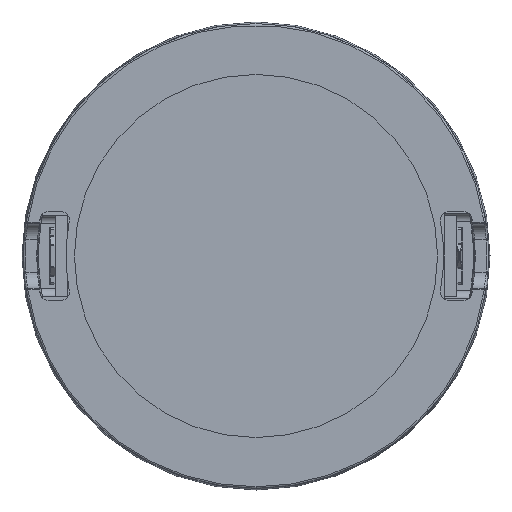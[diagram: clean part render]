
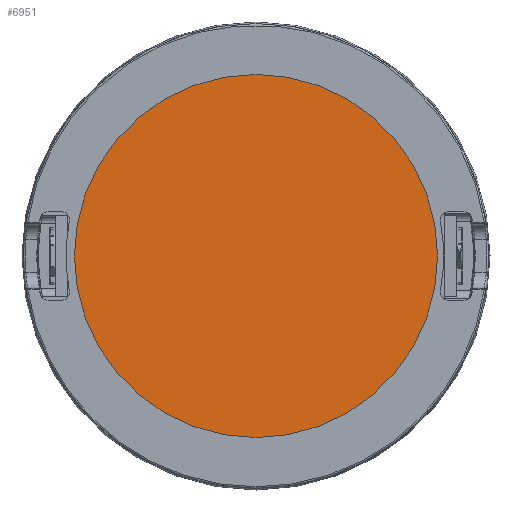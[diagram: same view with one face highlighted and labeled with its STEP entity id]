
A CAD part, front view. The second image highlights one B-rep face of the part: STEP entity #6951.
In plain terms, the highlighted planar face has unit normal (0, -1, 0).
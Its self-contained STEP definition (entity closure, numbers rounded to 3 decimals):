
#5284 = EDGE_LOOP ( 'NONE', ( #30673, #13613 ) ) ;
#6951 = ADVANCED_FACE ( 'NONE', ( #23301 ), #27419, .T. ) ;
#8658 = CARTESIAN_POINT ( 'NONE',  ( 0., -24.08, 0. ) ) ;
#9125 = CIRCLE ( 'NONE', #34950, 22.5 ) ;
#10493 = CARTESIAN_POINT ( 'NONE',  ( 0., -24.08, 22.5 ) ) ;
#10559 = VERTEX_POINT ( 'NONE', #68568 ) ;
#12004 = CIRCLE ( 'NONE', #35515, 22.5 ) ;
#13613 = ORIENTED_EDGE ( 'NONE', *, *, #38198, .T. ) ;
#14392 = DIRECTION ( 'NONE',  ( 0., 0., -1. ) ) ;
#17473 = EDGE_CURVE ( 'NONE', #10559, #39927, #9125, .T. ) ;
#19020 = DIRECTION ( 'NONE',  ( 0., -1., 0. ) ) ;
#21559 = DIRECTION ( 'NONE',  ( 0., -1., 0. ) ) ;
#23301 = FACE_OUTER_BOUND ( 'NONE', #5284, .T. ) ;
#27419 = PLANE ( 'NONE',  #69927 ) ;
#28407 = CARTESIAN_POINT ( 'NONE',  ( 0., -24.08, 0. ) ) ;
#30673 = ORIENTED_EDGE ( 'NONE', *, *, #17473, .T. ) ;
#34950 = AXIS2_PLACEMENT_3D ( 'NONE', #53153, #19020, #58865 ) ;
#35515 = AXIS2_PLACEMENT_3D ( 'NONE', #8658, #48597, #14392 ) ;
#36629 = DIRECTION ( 'NONE',  ( 0., 0., -1. ) ) ;
#38198 = EDGE_CURVE ( 'NONE', #39927, #10559, #12004, .T. ) ;
#39927 = VERTEX_POINT ( 'NONE', #10493 ) ;
#48597 = DIRECTION ( 'NONE',  ( 0., -1., 0. ) ) ;
#53153 = CARTESIAN_POINT ( 'NONE',  ( 0., -24.08, 0. ) ) ;
#58865 = DIRECTION ( 'NONE',  ( 0., 0., -1. ) ) ;
#68568 = CARTESIAN_POINT ( 'NONE',  ( 0., -24.08, -22.5 ) ) ;
#69927 = AXIS2_PLACEMENT_3D ( 'NONE', #28407, #21559, #36629 ) ;
